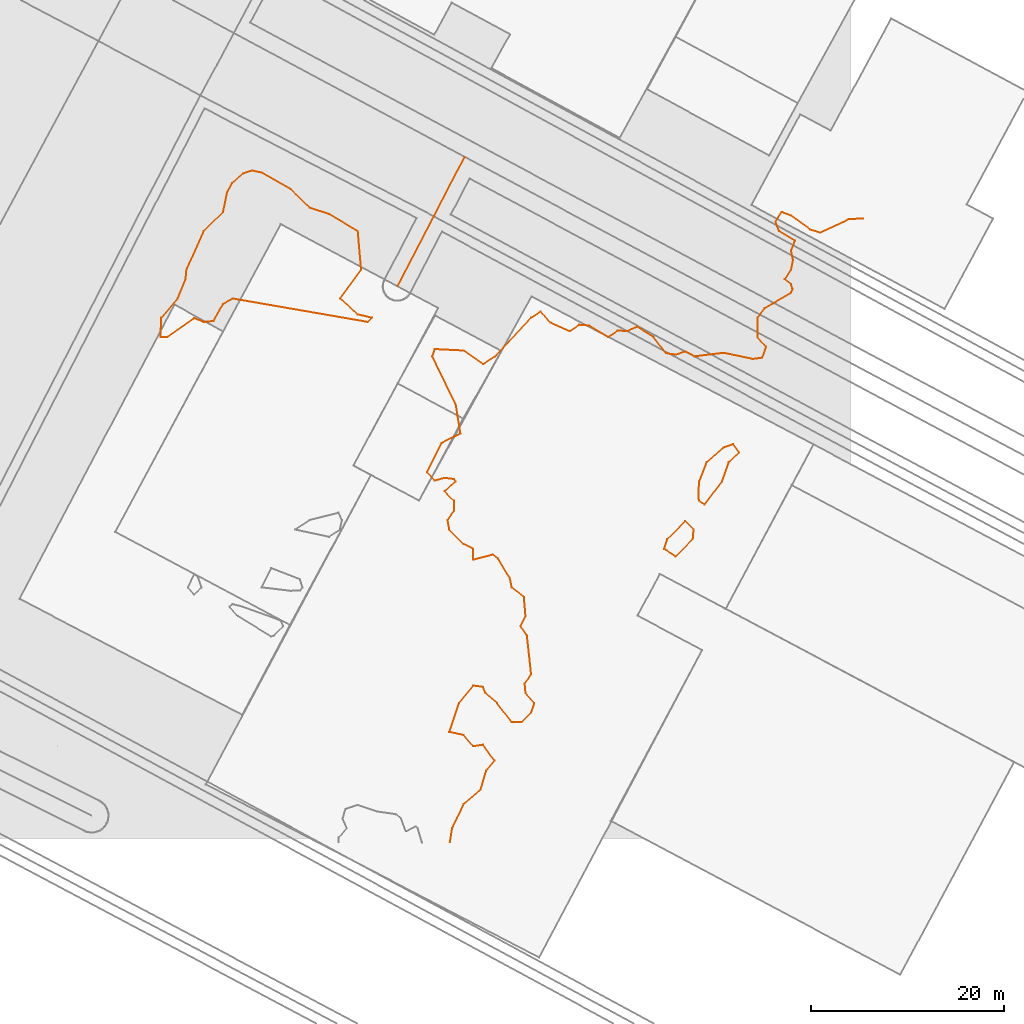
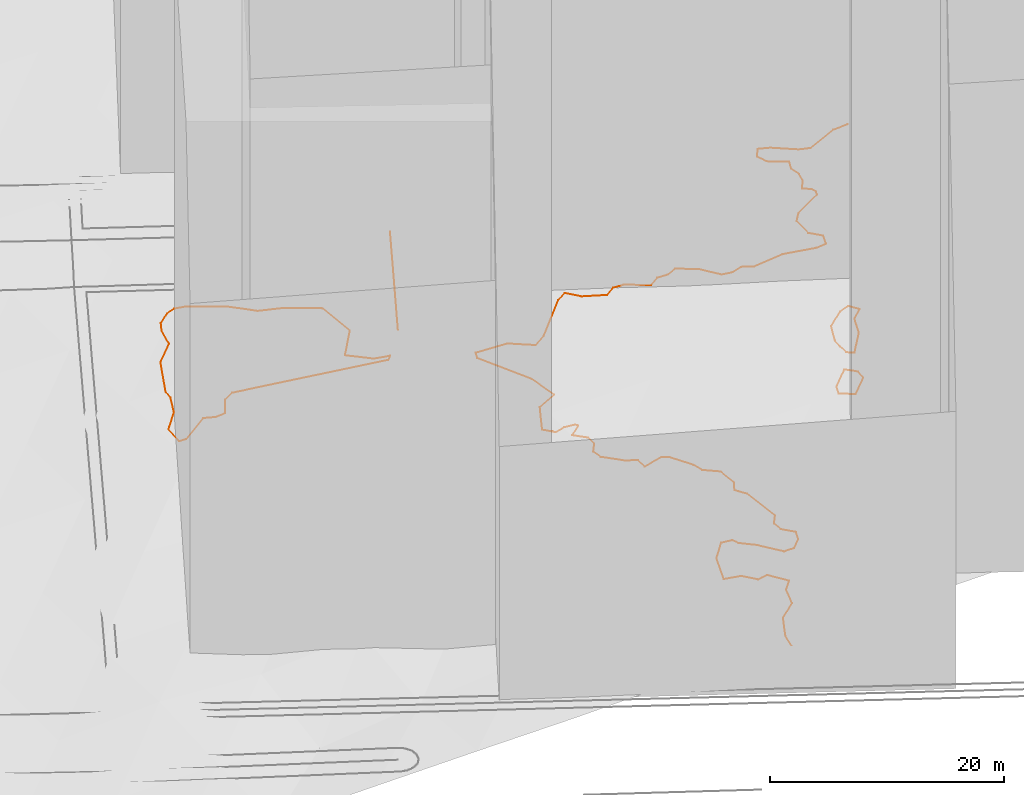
# Not in any storey, part 63 of 76: 5 proxies.
"""IFC2X3 model written with IfcOpenShell, lengths in metres."""

from ifc_helpers import new_model, entity, si_unit, frame, origin_with_axes, place, context, subcontext, project, element, save


model = new_model("IFC2X3")

# Units and contexts
model_context = context("Model", 3, precision=1e-05, world=origin_with_axes())
body_context = subcontext(model_context, "Body", "Model", "MODEL_VIEW")
ifc_project = project(units=[si_unit("AREAUNIT", "SQUARE_METRE"), si_unit("LENGTHUNIT", "METRE")], contexts=[model_context])

# Proxies
proxy_1_placement = place(None, frame((325.2928093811, 57.3157186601, 19.7473560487), z_axis=(0.0, 0.0, 1.0), x_axis=(1.0, 0.0, 0.0)))
element("IfcBuildingElementProxy", 1, at=proxy_1_placement, Name="Route 46", ObjectType="NOTDEFINED", context=body_context, shape_type="GeometricCurveSet", body=[
    entity("IfcGeometricCurveSet", [entity("IfcPolyline", [entity("IfcCartesianPoint", [0.0, 0.0, 0.0]), entity("IfcCartesianPoint", [3.7732943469, 7.2604063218, -0.1908729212]), entity("IfcCartesianPoint", [6.9767256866, 13.4372595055, -0.2941373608])])]),
])
proxy_2_placement = place(None, frame((300.692170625, 52.0447113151, 20.0), z_axis=(0.0, 0.0, 1.0), x_axis=(1.0, 0.0, 0.0)))
element("IfcBuildingElementProxy", 2, at=proxy_2_placement, Name="Contour 20.0 m", ObjectType="NOTDEFINED", context=body_context, shape_type="GeometricCurveSet", body=[
    entity("IfcGeometricCurveSet", [entity("IfcPolyline", [entity("IfcCartesianPoint", [0.6990306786, 0.0, 0.0]), entity("IfcCartesianPoint", [0.0, 0.0, 0.0]), entity("IfcCartesianPoint", [0.0876532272, 2.0, 0.0]), entity("IfcCartesianPoint", [1.7850425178, 4.0, 0.0]), entity("IfcCartesianPoint", [2.604670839, 6.0, 0.0]), entity("IfcCartesianPoint", [2.6994351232, 7.0, 0.0]), entity("IfcCartesianPoint", [4.4993901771, 11.0, 0.0]), entity("IfcCartesianPoint", [6.4993321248, 12.9999523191, 0.0]), entity("IfcCartesianPoint", [6.9204634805, 15.0, 0.0]), entity("IfcCartesianPoint", [7.4279453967, 16.0, 0.0]), entity("IfcCartesianPoint", [8.5993149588, 17.0, 0.0]), entity("IfcCartesianPoint", [9.4993321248, 17.3000495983, 0.0]), entity("IfcCartesianPoint", [10.4993321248, 17.0834843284, 0.0]), entity("IfcCartesianPoint", [13.4993321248, 15.3704970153, 0.0]), entity("IfcCartesianPoint", [15.4993321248, 13.4377458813, 0.0]), entity("IfcCartesianPoint", [17.4993321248, 12.769400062, 0.0]), entity("IfcCartesianPoint", [20.4994465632, 11.0, 0.0]), entity("IfcCartesianPoint", [20.8471391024, 7.0, 0.0]), entity("IfcCartesianPoint", [18.6423255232, 4.0, 0.0]), entity("IfcCartesianPoint", [20.4993321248, 2.3571078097, 0.0]), entity("IfcCartesianPoint", [21.960858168, 2.0, 0.0]), entity("IfcCartesianPoint", [21.4993321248, 1.5715842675, 0.0]), entity("IfcCartesianPoint", [7.4993321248, 4.0000408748, 0.0]), entity("IfcCartesianPoint", [6.4993321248, 3.4444032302, 0.0]), entity("IfcCartesianPoint", [5.4993321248, 1.6667761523, 0.0]), entity("IfcCartesianPoint", [4.4993321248, 1.566831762, 0.0]), entity("IfcCartesianPoint", [3.4993321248, 1.9583637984, 0.0]), entity("IfcCartesianPoint", [0.6990306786, 0.0, 0.0])])]),
])
proxy_3_placement = place(None, frame((356.5804731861, 36.0447113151, 20.0), z_axis=(0.0, 0.0, 1.0), x_axis=(1.0, 0.0, 0.0)))
element("IfcBuildingElementProxy", 3, at=proxy_3_placement, Name="Contour 20.0 m", ObjectType="NOTDEFINED", context=body_context, shape_type="GeometricCurveSet", body=[
    entity("IfcGeometricCurveSet", [entity("IfcPolyline", [entity("IfcCartesianPoint", [0.6110295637, -1.3998588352, 0.0]), entity("IfcCartesianPoint", [2.4292602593, 1.0, 0.0]), entity("IfcCartesianPoint", [3.1467728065, 3.0, 0.0]), entity("IfcCartesianPoint", [4.2280406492, 4.0, 0.0]), entity("IfcCartesianPoint", [3.6110295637, 4.8788143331, 0.0]), entity("IfcCartesianPoint", [2.6110295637, 4.5348973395, 0.0]), entity("IfcCartesianPoint", [0.8491563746, 3.0, 0.0]), entity("IfcCartesianPoint", [0.0705514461, 1.0, 0.0]), entity("IfcCartesianPoint", [0.0, 0.0, 0.0]), entity("IfcCartesianPoint", [0.0397917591, -1.0, 0.0]), entity("IfcCartesianPoint", [0.6110295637, -1.3998588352, 0.0])])]),
])
proxy_4_placement = place(None, frame((352.9972557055, 30.0447113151, 20.0), z_axis=(0.0, 0.0, 1.0), x_axis=(1.0, 0.0, 0.0)))
element("IfcBuildingElementProxy", 4, at=proxy_4_placement, Name="Contour 20.0 m", ObjectType="NOTDEFINED", context=body_context, shape_type="GeometricCurveSet", body=[
    entity("IfcGeometricCurveSet", [entity("IfcPolyline", [entity("IfcCartesianPoint", [1.1942470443, -0.7825326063, 0.0]), entity("IfcCartesianPoint", [2.9859706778, 1.0, 0.0]), entity("IfcCartesianPoint", [3.0693170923, 2.0, 0.0]), entity("IfcCartesianPoint", [2.1942470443, 2.8750283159, 0.0]), entity("IfcCartesianPoint", [0.3372027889, 1.0, 0.0]), entity("IfcCartesianPoint", [0.0, 0.0, 0.0]), entity("IfcCartesianPoint", [1.1942470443, -0.7825326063, 0.0])])]),
])
proxy_5_placement = place(None, frame((328.373662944, 38.0447113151, 20.0), z_axis=(0.0, 0.0, 1.0), x_axis=(1.0, 0.0, 0.0)))
element("IfcBuildingElementProxy", 5, at=proxy_5_placement, Name="Contour 20.0 m", ObjectType="NOTDEFINED", context=body_context, shape_type="GeometricCurveSet", body=[
    entity("IfcGeometricCurveSet", [entity("IfcPolyline", [entity("IfcCartesianPoint", [2.3734471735, -38.5, 0.0]), entity("IfcCartesianPoint", [2.6178779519, -37.0, 0.0]), entity("IfcCartesianPoint", [3.8178398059, -34.5002383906, 0.0]), entity("IfcCartesianPoint", [5.5678874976, -33.0, 0.0]), entity("IfcCartesianPoint", [6.1512367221, -31.0, 0.0]), entity("IfcCartesianPoint", [7.0178398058, -30.0, 0.0]), entity("IfcCartesianPoint", [5.8178398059, -28.3332485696, 0.0]), entity("IfcCartesianPoint", [4.8178398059, -28.4996186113, 0.0]), entity("IfcCartesianPoint", [3.8178398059, -27.3331744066, 0.0]), entity("IfcCartesianPoint", [2.3181974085, -27.0, 0.0]), entity("IfcCartesianPoint", [3.3179113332, -24.0, 0.0]), entity("IfcCartesianPoint", [4.8178398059, -22.1999923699, 0.0]), entity("IfcCartesianPoint", [5.8178398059, -22.3331849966, 0.0]), entity("IfcCartesianPoint", [6.103698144, -23.0, 0.0]), entity("IfcCartesianPoint", [7.262423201, -24.0, 0.0]), entity("IfcCartesianPoint", [8.8178398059, -25.9997456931, 0.0]), entity("IfcCartesianPoint", [9.8178398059, -25.9998728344, 0.0]), entity("IfcCartesianPoint", [10.8178080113, -25.0, 0.0]), entity("IfcCartesianPoint", [11.1512790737, -24.0, 0.0]), entity("IfcCartesianPoint", [10.246551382, -23.0, 0.0]), entity("IfcCartesianPoint", [10.151257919, -22.0, 0.0]), entity("IfcCartesianPoint", [10.8177921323, -21.0, 0.0]), entity("IfcCartesianPoint", [10.3893929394, -17.0, 0.0]), entity("IfcCartesianPoint", [9.7180210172, -16.0, 0.0]), entity("IfcCartesianPoint", [10.2464229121, -15.0, 0.0]), entity("IfcCartesianPoint", [10.0679113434, -13.0, 0.0]), entity("IfcCartesianPoint", [8.8181735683, -12.0, 0.0]), entity("IfcCartesianPoint", [8.5957282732, -11.0, 0.0]), entity("IfcCartesianPoint", [7.3893929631, -9.0, 0.0]), entity("IfcCartesianPoint", [6.8178398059, -8.5999313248, 0.0]), entity("IfcCartesianPoint", [4.8178398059, -9.1248032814, 0.0]), entity("IfcCartesianPoint", [4.8177398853, -8.0, 0.0]), entity("IfcCartesianPoint", [3.8178398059, -7.4997139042, 0.0]), entity("IfcCartesianPoint", [2.3181735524, -6.0, 0.0]), entity("IfcCartesianPoint", [2.1512861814, -5.0, 0.0]), entity("IfcCartesianPoint", [2.8178874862, -4.0, 0.0]), entity("IfcCartesianPoint", [2.8179542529, -3.0, 0.0]), entity("IfcCartesianPoint", [1.8182847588, -2.0, 0.0]), entity("IfcCartesianPoint", [2.9845064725, -1.0, 0.0]), entity("IfcCartesianPoint", [2.8178398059, -0.7500238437, 0.0]), entity("IfcCartesianPoint", [1.8178398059, -0.6250089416, 0.0]), entity("IfcCartesianPoint", [0.8178398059, -0.8998359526, 0.0]), entity("IfcCartesianPoint", [0.0, 0.0, 0.0]), entity("IfcCartesianPoint", [1.5021317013, 3.0, 0.0]), entity("IfcCartesianPoint", [3.4841888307, 4.0, 0.0]), entity("IfcCartesianPoint", [2.9998140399, 7.0, 0.0]), entity("IfcCartesianPoint", [0.5452811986, 12.0, 0.0]), entity("IfcCartesianPoint", [0.8178398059, 12.7499522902, 0.0]), entity("IfcCartesianPoint", [3.8178398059, 12.6001144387, 0.0]), entity("IfcCartesianPoint", [5.8178398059, 11.1820183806, 0.0]), entity("IfcCartesianPoint", [7.067768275, 12.0, 0.0]), entity("IfcCartesianPoint", [10.8178398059, 15.9999236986, 0.0]), entity("IfcCartesianPoint", [11.8178398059, 16.6665183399, 0.0]), entity("IfcCartesianPoint", [12.8178398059, 15.5000953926, 0.0]), entity("IfcCartesianPoint", [14.8178398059, 14.6001373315, 0.0]), entity("IfcCartesianPoint", [15.8178398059, 15.2727446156, 0.0]), entity("IfcCartesianPoint", [16.8178398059, 15.2001296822, 0.0]), entity("IfcCartesianPoint", [18.8178398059, 14.0003496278, 0.0]), entity("IfcCartesianPoint", [19.8178398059, 14.6667302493, 0.0]), entity("IfcCartesianPoint", [20.8178398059, 14.6251221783, 0.0]), entity("IfcCartesianPoint", [21.8178398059, 15.0769738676, 0.0]), entity("IfcCartesianPoint", [23.532324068, 14.0, 0.0]), entity("IfcCartesianPoint", [24.8178398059, 12.3336088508, 0.0]), entity("IfcCartesianPoint", [25.8178398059, 12.1667991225, 0.0]), entity("IfcCartesianPoint", [26.8178398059, 12.5000953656, 0.0]), entity("IfcCartesianPoint", [27.8178398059, 12.0002542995, 0.0]), entity("IfcCartesianPoint", [30.8178398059, 12.363726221, 0.0]), entity("IfcCartesianPoint", [33.8178398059, 11.727419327, 0.0]), entity("IfcCartesianPoint", [34.8178398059, 11.8572323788, 0.0]), entity("IfcCartesianPoint", [35.21793136, 13.0, 0.0]), entity("IfcCartesianPoint", [34.3182688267, 14.0, 0.0]), entity("IfcCartesianPoint", [34.3179828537, 16.0, 0.0]), entity("IfcCartesianPoint", [35.0678159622, 17.0, 0.0]), entity("IfcCartesianPoint", [37.8178398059, 18.6001144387, 0.0]), entity("IfcCartesianPoint", [37.9606833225, 19.0, 0.0]), entity("IfcCartesianPoint", [37.8178398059, 19.4999988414, 0.0]), entity("IfcCartesianPoint", [37.1513003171, 20.0, 0.0]), entity("IfcCartesianPoint", [37.8178398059, 21.000099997, 0.0]), entity("IfcCartesianPoint", [38.0178398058, 22.0, 0.0]), entity("IfcCartesianPoint", [37.8179161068, 23.0, 0.0]), entity("IfcCartesianPoint", [38.2178894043, 24.0, 0.0]), entity("IfcCartesianPoint", [36.5681736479, 25.0, 0.0]), entity("IfcCartesianPoint", [36.2025432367, 26.0, 0.0]), entity("IfcCartesianPoint", [36.8174585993, 27.0, 0.0]), entity("IfcCartesianPoint", [37.8178398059, 26.6154907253, 0.0]), entity("IfcCartesianPoint", [39.8178398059, 25.1668785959, 0.0]), entity("IfcCartesianPoint", [40.8178398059, 24.8462904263, 0.0]), entity("IfcCartesianPoint", [43.8178398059, 26.2307556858, 0.0]), entity("IfcCartesianPoint", [45.3178398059, 26.3333545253, 0.0])])]),
])

save(model, "model.ifc")
